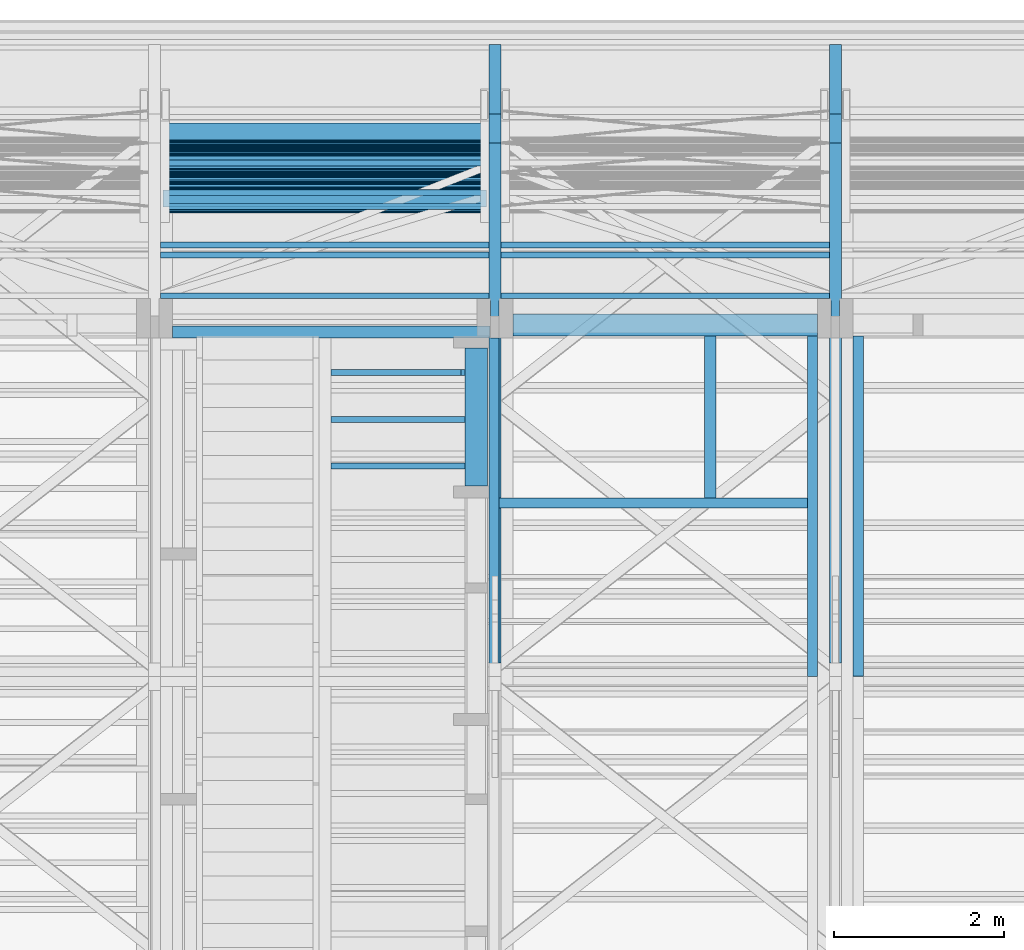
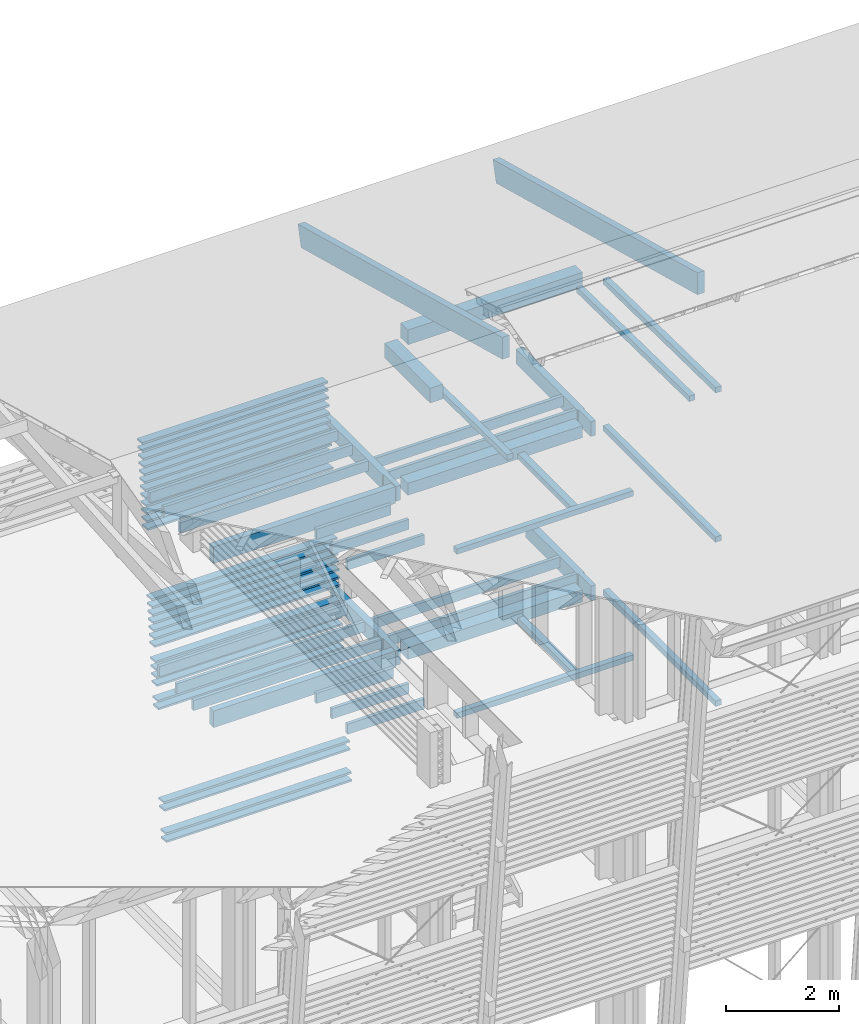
# One storey, part 15 of 48: 66 beams.
"""IFC2X3 building model written with IfcOpenShell, lengths in metres."""

from ifc_helpers import new_model, si_unit, direction, frame, origin_with_axes, place, context, subcontext, project, spatial, faceted_brep, material, element, save


model = new_model("IFC2X3")

# Units and contexts
model_context = context("Model", 3, precision=1e-06, world=origin_with_axes(), true_north=direction((0.0, 1.0, 0.0)))
body_context = subcontext(model_context, "Body", "Model", "MODEL_VIEW")
ifc_project = project(units=[si_unit("LENGTHUNIT", "METRE"), si_unit("AREAUNIT", "SQUARE_METRE"), si_unit("VOLUMEUNIT", "CUBIC_METRE"), si_unit("PLANEANGLEUNIT", "RADIAN")], contexts=[model_context])

# Site, building, storey
site_placement = place(None, origin_with_axes())
site = spatial("IfcSite", under=ifc_project, at=site_placement, CompositionType="ELEMENT")
building_placement = place(site_placement, origin_with_axes())
building = spatial("IfcBuilding", under=site, at=building_placement, Name="Building 1", CompositionType="ELEMENT")
storey_placement = place(building_placement, origin_with_axes())
storey = spatial("IfcBuildingStorey", under=building, at=storey_placement, Name="Storey 1", CompositionType="ELEMENT", Elevation=0.0)

# Beams
ifc_material_1 = material(Name="GL28h")
beam_1_placement = place(storey_placement, frame((41.5597437, -183.5174506, 4.139), z_axis=(0.0, 0.0, 1.0), x_axis=(1.0, 0.0, 0.0)))
element("IfcBeam", 1, at=beam_1_placement, inside=storey, material=ifc_material_1, Name="Solive", context=body_context, shape_type="Brep", body=[
    faceted_brep([(3.86, 0.035, 0.11), (3.86, 0.035, -0.11), (0.0, 0.035, -0.11), (0.0, 0.035, 0.11), (3.86, -0.035, -0.11), (0.0, -0.035, -0.11), (3.86, -0.035, 0.11), (0.0, -0.035, 0.11)], [[[0, 1, 2, 3]], [[1, 4, 5, 2]], [[4, 6, 7, 5]], [[6, 0, 3, 7]], [[1, 0, 6, 4]], [[7, 3, 2, 5]]]),
])
beam_2_placement = place(storey_placement, frame((45.4897437, -181.8355309, 11.197686), z_axis=(0.0, 0.258819, 0.9659258), x_axis=(0.0, -0.9659258, 0.258819)))
element("IfcBeam", 2, at=beam_2_placement, inside=storey, material=ifc_material_1, Name="Arbalétrier", context=body_context, shape_type="Brep", body=[
    faceted_brep([(7.4053414, 0.07, -0.23), (7.5285981, 0.07, 0.23), (7.5285981, -0.07, 0.23), (7.4053414, -0.07, -0.23), (0.0, 0.07, 0.23), (0.0, -0.07, 0.23), (0.0, 0.07, -0.23), (0.0, -0.07, -0.23)], [[[0, 1, 2, 3]], [[2, 1, 4, 5]], [[1, 0, 6, 4]], [[0, 3, 7, 6]], [[3, 2, 5, 7]], [[6, 7, 5, 4]]]),
])
ifc_material_2 = material(Name="Moabi")
beam_3_placement = place(storey_placement, frame((45.3927441, -183.5896631, 1.1905332), z_axis=(0.0, -0.9945219, 0.1045285), x_axis=(-1.0, 0.0, 0.0)))
element("IfcBeam", 3, at=beam_3_placement, inside=storey, material=ifc_material_2, Name="garde corp", context=body_context, shape_type="Brep", body=[
    faceted_brep([(3.806, -0.02, 0.1), (3.806, 0.02, 0.1), (0.0, 0.02, 0.1), (0.0, -0.02, 0.1), (3.806, 0.02, -0.1), (0.0, 0.02, -0.1), (3.806, -0.02, -0.1), (0.0, -0.02, -0.1)], [[[0, 1, 2, 3]], [[1, 4, 5, 2]], [[4, 6, 7, 5]], [[6, 0, 3, 7]], [[1, 0, 6, 4]], [[7, 3, 2, 5]]]),
])
beam_4_placement = place(storey_placement, frame((45.3927439, -183.1715493, 5.1686208), z_axis=(0.0, -0.9945219, 0.1045285), x_axis=(-1.0, 0.0, 0.0)))
element("IfcBeam", 4, at=beam_4_placement, inside=storey, material=ifc_material_2, Name="garde corp", context=body_context, shape_type="Brep", body=[
    faceted_brep([(3.8048053, -0.02, 0.1), (3.8048053, 0.02, 0.1), (0.0, 0.02, 0.1), (0.0, -0.02, 0.1), (3.8048051, 0.02, -0.1), (0.0, 0.02, -0.1), (3.8048053, -0.02, -0.1), (0.0, -0.02, -0.1)], [[[0, 1, 2, 3]], [[1, 4, 5, 2]], [[4, 6, 7, 5]], [[6, 0, 3, 7]], [[1, 0, 6, 4]], [[7, 3, 2, 5]]]),
])
for number, where, z_axis, x_axis, name in (
    (5, (49.2197437, -185.2055702, 10.7599677), (0.0, 0.0149983, 0.9998875), (0.0, -0.9998875, 0.0149983), "Sous-glace"),
    (6, (49.7597437, -185.2055702, 10.7599682), (0.0, 0.0149983, 0.9998875), (0.0, -0.9998875, 0.0149983), "Sous-glace"),
    (7, (45.4797437, -185.2055702, 10.7999722), (0.0, 0.0149983, 0.9998875), (0.0, -0.9998875, 0.0149983), "Sous-glace"),
):
    element("IfcBeam", number, at=place(storey_placement, frame(where, z_axis=z_axis, x_axis=x_axis)), inside=storey, material=ifc_material_1, Name=name, context=body_context, shape_type="Brep", body=[
        faceted_brep([(4.0038138, -0.06, 0.06), (4.0020138, -0.06, -0.06), (4.0020138, 0.06, -0.06), (4.0038138, 0.06, 0.06), (0.0, -0.06, -0.06), (0.0, 0.06, -0.06), (0.0018, -0.06, 0.06), (0.0018, 0.06, 0.06)], [[[0, 1, 2, 3]], [[2, 1, 4, 5]], [[1, 0, 6, 4]], [[5, 4, 6, 7]], [[0, 3, 7, 6]], [[3, 2, 5, 7]]]),
    ])
beam_5_placement = place(storey_placement, frame((41.6997437, -185.1564877, 4.069), z_axis=(0.0, 0.0, 1.0), x_axis=(1.0, 0.0, 0.0)))
element("IfcBeam", 8, at=beam_5_placement, inside=storey, material=ifc_material_1, Name="Sommier", context=body_context, shape_type="Brep", body=[
    faceted_brep([(3.73, 0.07, 0.18), (3.73, 0.07, -0.18), (0.0, 0.07, -0.18), (0.0, 0.07, 0.18), (3.73, -0.07, -0.18), (0.0, -0.07, -0.18), (3.73, -0.07, 0.18), (0.0, -0.07, 0.18)], [[[0, 1, 2, 3]], [[1, 4, 5, 2]], [[4, 6, 7, 5]], [[6, 0, 3, 7]], [[1, 0, 6, 4]], [[7, 3, 2, 5]]]),
])
beam_6_placement = place(storey_placement, frame((45.5397437, -187.1664884, 7.575), z_axis=(0.0, 0.0, 1.0), x_axis=(1.0, 0.0, 0.0)))
element("IfcBeam", 9, at=beam_6_placement, inside=storey, material=ifc_material_1, Name="Sous-glace", context=body_context, shape_type="Brep", body=[
    faceted_brep([(3.62, -0.06, 0.06), (3.62, -0.06, -0.06), (3.62, 0.06, -0.06), (3.62, 0.06, 0.06), (0.0, -0.06, -0.06), (0.0, 0.06, -0.06), (0.0, -0.06, 0.06), (0.0, 0.06, 0.06)], [[[0, 1, 2, 3]], [[2, 1, 4, 5]], [[1, 0, 6, 4]], [[5, 4, 6, 7]], [[2, 5, 7, 3]], [[0, 3, 7, 6]]]),
])
beam_7_placement = place(storey_placement, frame((48.0197437, -187.1064884, 7.575), z_axis=(0.0, 0.0, 1.0), x_axis=(0.0, 1.0, 0.0)))
element("IfcBeam", 10, at=beam_7_placement, inside=storey, material=ifc_material_1, Name="Sous-glace", context=body_context, shape_type="Brep", body=[
    faceted_brep([(1.9000003, -0.07, -0.06), (1.9000003, 0.07, -0.06), (1.9000003, 0.07, 0.06), (1.9000003, -0.07, 0.06), (0.0, 0.07, -0.06), (0.0, 0.07, 0.06), (0.0, -0.07, -0.06), (0.0, -0.07, 0.06)], [[[0, 1, 2, 3]], [[2, 1, 4, 5]], [[1, 0, 6, 4]], [[0, 3, 7, 6]], [[4, 6, 7, 5]], [[3, 2, 5, 7]]]),
])
beam_8_placement = place(storey_placement, frame((45.5397437, -187.1664884, 4.015), z_axis=(0.0, 0.0, 1.0), x_axis=(1.0, 0.0, 0.0)))
element("IfcBeam", 11, at=beam_8_placement, inside=storey, material=ifc_material_1, Name="Sous-glace", context=body_context, shape_type="Brep", body=[
    faceted_brep([(3.62, -0.06, 0.06), (3.62, -0.06, -0.06), (3.62, 0.06, -0.06), (3.62, 0.06, 0.06), (0.0, -0.06, -0.06), (0.0, 0.06, -0.06), (0.0, -0.06, 0.06), (0.0, 0.06, 0.06)], [[[0, 1, 2, 3]], [[2, 1, 4, 5]], [[1, 0, 6, 4]], [[5, 4, 6, 7]], [[2, 5, 7, 3]], [[0, 3, 7, 6]]]),
])
beam_9_placement = place(storey_placement, frame((48.0197437, -187.1064884, 4.015), z_axis=(0.0, 0.0, 1.0), x_axis=(0.0, 1.0, 0.0)))
element("IfcBeam", 12, at=beam_9_placement, inside=storey, material=ifc_material_1, Name="Sous-glace", context=body_context, shape_type="Brep", body=[
    faceted_brep([(1.9000003, -0.07, -0.06), (1.9000003, 0.07, -0.06), (1.9000003, 0.07, 0.06), (1.9000003, -0.07, 0.06), (0.0, 0.07, -0.06), (0.0, 0.07, 0.06), (0.0, -0.07, -0.06), (0.0, -0.07, 0.06)], [[[0, 1, 2, 3]], [[2, 1, 4, 5]], [[1, 0, 6, 4]], [[0, 3, 7, 6]], [[4, 6, 7, 5]], [[3, 2, 5, 7]]]),
])
beam_10_placement = place(storey_placement, frame((45.3927441, -183.6565614, 0.5540392), z_axis=(0.0, -0.9945219, 0.1045285), x_axis=(-1.0, 0.0, 0.0)))
element("IfcBeam", 13, at=beam_10_placement, inside=storey, material=ifc_material_2, Name="garde corp", context=body_context, shape_type="Brep", body=[
    faceted_brep([(3.806, -0.02, 0.1), (3.806, 0.02, 0.1), (0.0, 0.02, 0.1), (0.0, -0.02, 0.1), (3.806, 0.02, -0.1), (0.0, 0.02, -0.1), (3.806, -0.02, -0.1), (0.0, -0.02, -0.1)], [[[0, 1, 2, 3]], [[1, 4, 5, 2]], [[4, 6, 7, 5]], [[6, 0, 3, 7]], [[1, 0, 6, 4]], [[7, 3, 2, 5]]]),
])
beam_11_placement = place(storey_placement, frame((45.6997437, -185.0764881, 7.645), z_axis=(0.0, 0.0, 1.0), x_axis=(1.0, 0.0, 0.0)))
element("IfcBeam", 14, at=beam_11_placement, inside=storey, material=ifc_material_1, Name="Buton", context=body_context, shape_type="Brep", body=[
    faceted_brep([(0.0, 0.13, 0.13), (0.0, -0.13, 0.13), (3.58, -0.13, 0.13), (3.58, 0.13, 0.13), (0.0, -0.13, -0.13), (3.58, -0.13, -0.13), (0.0, 0.13, -0.13), (3.58, 0.13, -0.13)], [[[0, 1, 2, 3]], [[2, 1, 4, 5]], [[1, 0, 6, 4]], [[5, 4, 6, 7]], [[0, 3, 7, 6]], [[3, 2, 5, 7]]]),
])
beam_12_placement = place(storey_placement, frame((49.7597437, -185.2064881, 4.015), z_axis=(0.0, 0.0, 1.0), x_axis=(0.0, -1.0, 0.0)))
element("IfcBeam", 15, at=beam_12_placement, inside=storey, material=ifc_material_1, Name="Sous-glace", context=body_context, shape_type="Brep", body=[
    faceted_brep([(0.0, -0.06, -0.06), (0.0, -0.06, 0.06), (0.0, 0.06, 0.06), (0.0, 0.06, -0.06), (3.9940817, -0.06, 0.06), (3.9940817, 0.06, 0.06), (3.9940817, -0.06, -0.06), (3.9940817, 0.06, -0.06)], [[[0, 1, 2, 3]], [[4, 5, 2, 1]], [[6, 4, 1, 0]], [[7, 6, 0, 3]], [[5, 7, 3, 2]], [[6, 7, 5, 4]]]),
])
beam_13_placement = place(storey_placement, frame((45.3927439, -183.2886212, 4.0547563), z_axis=(0.0, -0.9945219, 0.1045285), x_axis=(-1.0, 0.0, 0.0)))
element("IfcBeam", 16, at=beam_13_placement, inside=storey, material=ifc_material_2, Name="garde corp", context=body_context, shape_type="Brep", body=[
    faceted_brep([(3.8048051, -0.02, 0.1), (3.8048051, 0.02, 0.1), (0.0, 0.02, 0.1), (0.0, -0.02, 0.1), (3.8048051, 0.02, -0.1), (0.0, 0.02, -0.1), (3.8048051, -0.02, -0.1), (0.0, -0.02, -0.1)], [[[0, 1, 2, 3]], [[1, 4, 5, 2]], [[4, 6, 7, 5]], [[6, 0, 3, 7]], [[1, 0, 6, 4]], [[7, 3, 2, 5]]]),
])
beam_14_placement = place(storey_placement, frame((45.3927439, -183.2049984, 4.8503738), z_axis=(0.0, -0.9945219, 0.1045285), x_axis=(-1.0, 0.0, 0.0)))
element("IfcBeam", 17, at=beam_14_placement, inside=storey, material=ifc_material_2, Name="garde corp", context=body_context, shape_type="Brep", body=[
    faceted_brep([(3.8048053, -0.02, 0.1), (3.8048053, 0.02, 0.1), (0.0, 0.02, 0.1), (0.0, -0.02, 0.1), (3.8048051, 0.02, -0.1), (0.0, 0.02, -0.1), (3.8048053, -0.02, -0.1), (0.0, -0.02, -0.1)], [[[0, 1, 2, 3]], [[1, 4, 5, 2]], [[4, 6, 7, 5]], [[6, 0, 3, 7]], [[1, 0, 6, 4]], [[7, 3, 2, 5]]]),
])
beam_15_placement = place(storey_placement, frame((45.3927441, -182.8203337, 8.5102144), z_axis=(0.0, -0.9945219, 0.1045285), x_axis=(-1.0, 0.0, 0.0)))
element("IfcBeam", 18, at=beam_15_placement, inside=storey, material=ifc_material_2, Name="garde corp", context=body_context, shape_type="Brep", body=[
    faceted_brep([(3.806, -0.02, 0.1), (3.806, 0.02, 0.1), (0.0, 0.02, 0.1), (0.0, -0.02, 0.1), (3.806, 0.02, -0.1), (0.0, 0.02, -0.1), (3.806, -0.02, -0.1), (0.0, -0.02, -0.1)], [[[0, 1, 2, 3]], [[1, 4, 5, 2]], [[4, 6, 7, 5]], [[6, 0, 3, 7]], [[1, 0, 6, 4]], [[7, 3, 2, 5]]]),
])
beam_16_placement = place(storey_placement, frame((41.5597437, -184.7314881, 4.139), z_axis=(0.0, 0.0, 1.0), x_axis=(1.0, 0.0, 0.0)))
element("IfcBeam", 19, at=beam_16_placement, inside=storey, material=ifc_material_1, Name="Solive", context=body_context, shape_type="Brep", body=[
    faceted_brep([(3.86, 0.035, 0.11), (3.86, 0.035, -0.11), (0.0, 0.035, -0.11), (0.0, 0.035, 0.11), (3.86, -0.035, -0.11), (0.0, -0.035, -0.11), (3.86, -0.035, 0.11), (0.0, -0.035, 0.11)], [[[0, 1, 2, 3]], [[1, 4, 5, 2]], [[4, 6, 7, 5]], [[6, 0, 3, 7]], [[1, 0, 6, 4]], [[7, 3, 2, 5]]]),
])
for number, where, z_axis, x_axis, name in (
    (20, (45.3927441, -182.9541301, 7.2372263), (0.0, -0.9945219, 0.1045285), (-1.0, 0.0, 0.0), "garde corp"),
    (21, (45.3927441, -182.8370582, 8.3510909), (0.0, -0.9945219, 0.1045285), (-1.0, 0.0, 0.0), "garde corp"),
):
    element("IfcBeam", number, at=place(storey_placement, frame(where, z_axis=z_axis, x_axis=x_axis)), inside=storey, material=ifc_material_2, Name=name, context=body_context, shape_type="Brep", body=[
        faceted_brep([(3.806, -0.02, 0.1), (3.806, 0.02, 0.1), (0.0, 0.02, 0.1), (0.0, -0.02, 0.1), (3.806, 0.02, -0.1), (0.0, 0.02, -0.1), (3.806, -0.02, -0.1), (0.0, -0.02, -0.1)], [[[0, 1, 2, 3]], [[1, 4, 5, 2]], [[4, 6, 7, 5]], [[6, 0, 3, 7]], [[1, 0, 6, 4]], [[7, 3, 2, 5]]]),
    ])
beam_17_placement = place(storey_placement, frame((45.3927439, -183.1381002, 5.4868678), z_axis=(0.0, -0.9945219, 0.1045285), x_axis=(-1.0, 0.0, 0.0)))
element("IfcBeam", 22, at=beam_17_placement, inside=storey, material=ifc_material_2, Name="garde corp", context=body_context, shape_type="Brep", body=[
    faceted_brep([(3.8047071, -0.02, 0.1), (3.8047079, 0.02, 0.1), (0.0, 0.02, 0.1), (0.0, -0.02, 0.1), (3.8047077, 0.02, -0.1), (0.0, 0.02, -0.1), (3.8047071, -0.02, -0.1), (0.0, -0.02, -0.1)], [[[0, 1, 2, 3]], [[1, 4, 5, 2]], [[4, 6, 7, 5]], [[6, 0, 3, 7]], [[1, 0, 6, 4]], [[7, 3, 2, 5]]]),
])
for number, where, z_axis, x_axis, name in (
    (23, (45.3927441, -182.920681, 7.5554733), (0.0, -0.9945219, 0.1045285), (-1.0, 0.0, 0.0), "garde corp"),
    (24, (45.3927441, -182.8537828, 8.1919674), (0.0, -0.9945219, 0.1045285), (-1.0, 0.0, 0.0), "garde corp"),
):
    element("IfcBeam", number, at=place(storey_placement, frame(where, z_axis=z_axis, x_axis=x_axis)), inside=storey, material=ifc_material_2, Name=name, context=body_context, shape_type="Brep", body=[
        faceted_brep([(3.806, -0.02, 0.1), (3.806, 0.02, 0.1), (0.0, 0.02, 0.1), (0.0, -0.02, 0.1), (3.806, 0.02, -0.1), (0.0, 0.02, -0.1), (3.806, -0.02, -0.1), (0.0, -0.02, -0.1)], [[[0, 1, 2, 3]], [[1, 4, 5, 2]], [[4, 6, 7, 5]], [[6, 0, 3, 7]], [[1, 0, 6, 4]], [[7, 3, 2, 5]]]),
    ])
beam_18_placement = place(storey_placement, frame((45.3927439, -183.2384475, 4.5321268), z_axis=(0.0, -0.9945219, 0.1045285), x_axis=(-1.0, 0.0, 0.0)))
element("IfcBeam", 25, at=beam_18_placement, inside=storey, material=ifc_material_2, Name="garde corp", context=body_context, shape_type="Brep", body=[
    faceted_brep([(3.8047077, -0.02, 0.1), (3.8047077, 0.02, 0.1), (0.0, 0.02, 0.1), (0.0, -0.02, 0.1), (3.8047077, 0.02, -0.1), (0.0, 0.02, -0.1), (3.8047077, -0.02, -0.1), (0.0, -0.02, -0.1)], [[[0, 1, 2, 3]], [[1, 4, 5, 2]], [[4, 6, 7, 5]], [[6, 0, 3, 7]], [[1, 0, 6, 4]], [[7, 3, 2, 5]]]),
])
beam_19_placement = place(storey_placement, frame((43.5597437, -186.7330698, 4.139), z_axis=(0.0, 0.0, 1.0), x_axis=(1.0, 0.0, 0.0)))
element("IfcBeam", 26, at=beam_19_placement, inside=storey, material=ifc_material_1, Name="Solive", context=body_context, shape_type="Brep", body=[
    faceted_brep([(1.58, 0.035, -0.11), (1.58, -0.035, -0.11), (0.0, -0.035, -0.11), (0.0, 0.035, -0.11), (1.58, -0.035, 0.11), (0.0, -0.035, 0.11), (1.58, 0.035, 0.11), (0.0, 0.035, 0.11)], [[[0, 1, 2, 3]], [[1, 4, 5, 2]], [[4, 6, 7, 5]], [[6, 0, 3, 7]], [[0, 6, 4, 1]], [[5, 7, 3, 2]]]),
])
for number, where, z_axis, x_axis, name in (
    (27, (45.3927441, -182.9039564, 7.7145968), (0.0, -0.9945219, 0.1045285), (-1.0, 0.0, 0.0), "garde corp"),
    (28, (45.3927441, -182.9708546, 7.0781028), (0.0, -0.9945219, 0.1045285), (-1.0, 0.0, 0.0), "garde corp"),
):
    element("IfcBeam", number, at=place(storey_placement, frame(where, z_axis=z_axis, x_axis=x_axis)), inside=storey, material=ifc_material_2, Name=name, context=body_context, shape_type="Brep", body=[
        faceted_brep([(3.806, -0.02, 0.1), (3.806, 0.02, 0.1), (0.0, 0.02, 0.1), (0.0, -0.02, 0.1), (3.806, 0.02, -0.1), (0.0, 0.02, -0.1), (3.806, -0.02, -0.1), (0.0, -0.02, -0.1)], [[[0, 1, 2, 3]], [[1, 4, 5, 2]], [[4, 6, 7, 5]], [[6, 0, 3, 7]], [[1, 0, 6, 4]], [[7, 3, 2, 5]]]),
    ])
beam_20_placement = place(storey_placement, frame((45.3927439, -183.2718966, 4.2138798), z_axis=(0.0, -0.9945219, 0.1045285), x_axis=(-1.0, 0.0, 0.0)))
element("IfcBeam", 29, at=beam_20_placement, inside=storey, material=ifc_material_2, Name="garde corp", context=body_context, shape_type="Brep", body=[
    faceted_brep([(3.8048051, -0.02, 0.1), (3.8048051, 0.02, 0.1), (0.0, 0.02, 0.1), (0.0, -0.02, 0.1), (3.8048051, 0.02, -0.1), (0.0, 0.02, -0.1), (3.8048051, -0.02, -0.1), (0.0, -0.02, -0.1)], [[[0, 1, 2, 3]], [[1, 4, 5, 2]], [[4, 6, 7, 5]], [[6, 0, 3, 7]], [[1, 0, 6, 4]], [[7, 3, 2, 5]]]),
])
beam_21_placement = place(storey_placement, frame((45.3927441, -182.9374055, 7.3963498), z_axis=(0.0, -0.9945219, 0.1045285), x_axis=(-1.0, 0.0, 0.0)))
element("IfcBeam", 30, at=beam_21_placement, inside=storey, material=ifc_material_2, Name="garde corp", context=body_context, shape_type="Brep", body=[
    faceted_brep([(3.806, -0.02, 0.1), (3.806, 0.02, 0.1), (0.0, 0.02, 0.1), (0.0, -0.02, 0.1), (3.806, 0.02, -0.1), (0.0, 0.02, -0.1), (3.806, -0.02, -0.1), (0.0, -0.02, -0.1)], [[[0, 1, 2, 3]], [[1, 4, 5, 2]], [[4, 6, 7, 5]], [[6, 0, 3, 7]], [[1, 0, 6, 4]], [[7, 3, 2, 5]]]),
])
for number, where, z_axis, x_axis in (
    (31, (41.5597437, -183.1714881, 7.699), (0.0, 0.0, 1.0), (1.0, 0.0, 0.0)),
    (32, (45.5597437, -184.2514881, 7.699), (0.0, 0.0, 1.0), (1.0, 0.0, 0.0)),
):
    element("IfcBeam", number, at=place(storey_placement, frame(where, z_axis=z_axis, x_axis=x_axis)), inside=storey, material=ifc_material_1, Name="Solive", context=body_context, shape_type="Brep", body=[
        faceted_brep([(3.86, 0.035, 0.11), (3.86, 0.035, -0.11), (0.0, 0.035, -0.11), (0.0, 0.035, 0.11), (3.86, -0.035, -0.11), (0.0, -0.035, -0.11), (3.86, -0.035, 0.11), (0.0, -0.035, 0.11)], [[[0, 1, 2, 3]], [[1, 4, 5, 2]], [[4, 6, 7, 5]], [[6, 0, 3, 7]], [[1, 0, 6, 4]], [[7, 3, 2, 5]]]),
    ])
beam_22_placement = place(storey_placement, frame((41.5597433, -183.6814881, 7.699), z_axis=(0.0, 0.0, 1.0), x_axis=(1.0, 0.0, 0.0)))
element("IfcBeam", 33, at=beam_22_placement, inside=storey, material=ifc_material_1, Name="Solive", context=body_context, shape_type="Brep", body=[
    faceted_brep([(3.8600004, -0.035, -0.11), (3.8600004, 0.035, -0.11), (3.8600004, 0.035, 0.11), (3.8600004, -0.035, 0.11), (0.0, 0.035, -0.11), (0.0, 0.035, 0.11), (0.0, -0.035, -0.11), (0.0, -0.035, 0.11)], [[[0, 1, 2, 3]], [[2, 1, 4, 5]], [[1, 0, 6, 4]], [[0, 3, 7, 6]], [[3, 2, 5, 7]], [[7, 5, 4, 6]]]),
])
beam_23_placement = place(storey_placement, frame((41.5597437, -184.2514881, 7.699), z_axis=(0.0, 0.0, 1.0), x_axis=(1.0, 0.0, 0.0)))
element("IfcBeam", 34, at=beam_23_placement, inside=storey, material=ifc_material_1, Name="Solive", context=body_context, shape_type="Brep", body=[
    faceted_brep([(3.86, 0.035, 0.11), (3.86, 0.035, -0.11), (0.0, 0.035, -0.11), (0.0, 0.035, 0.11), (3.86, -0.035, -0.11), (0.0, -0.035, -0.11), (3.86, -0.035, 0.11), (0.0, -0.035, 0.11)], [[[0, 1, 2, 3]], [[1, 4, 5, 2]], [[4, 6, 7, 5]], [[6, 0, 3, 7]], [[1, 0, 6, 4]], [[7, 3, 2, 5]]]),
])
beam_24_placement = place(storey_placement, frame((45.3927441, -182.8872319, 7.8737203), z_axis=(0.0, -0.9945219, 0.1045285), x_axis=(-1.0, 0.0, 0.0)))
element("IfcBeam", 35, at=beam_24_placement, inside=storey, material=ifc_material_2, Name="garde corp", context=body_context, shape_type="Brep", body=[
    faceted_brep([(3.806, -0.02, 0.1), (3.806, 0.02, 0.1), (0.0, 0.02, 0.1), (0.0, -0.02, 0.1), (3.806, 0.02, -0.1), (0.0, 0.02, -0.1), (3.806, -0.02, -0.1), (0.0, -0.02, -0.1)], [[[0, 1, 2, 3]], [[1, 4, 5, 2]], [[4, 6, 7, 5]], [[6, 0, 3, 7]], [[1, 0, 6, 4]], [[7, 3, 2, 5]]]),
])
beam_25_placement = place(storey_placement, frame((45.5596481, -184.7314881, 7.699), z_axis=(0.0, 0.0, 1.0), x_axis=(1.0, 0.0, 0.0)))
element("IfcBeam", 36, at=beam_25_placement, inside=storey, material=ifc_material_1, Name="Solive", context=body_context, shape_type="Brep", body=[
    faceted_brep([(3.8600004, -0.035, -0.11), (3.8600956, 0.035, -0.11), (3.8600956, 0.035, 0.11), (3.8600004, -0.035, 0.11), (0.0, 0.035, -0.11), (0.0, 0.035, 0.11), (0.0, -0.035, -0.11), (0.0, -0.035, 0.11)], [[[0, 1, 2, 3]], [[2, 1, 4, 5]], [[1, 0, 6, 4]], [[0, 3, 7, 6]], [[3, 2, 5, 7]], [[7, 5, 4, 6]]]),
])
beam_26_placement = place(storey_placement, frame((45.5597437, -184.1344693, 4.139), z_axis=(0.0, 0.0, 1.0), x_axis=(1.0, 0.0, 0.0)))
element("IfcBeam", 37, at=beam_26_placement, inside=storey, material=ifc_material_1, Name="Solive", context=body_context, shape_type="Brep", body=[
    faceted_brep([(3.86, 0.035, 0.11), (3.86, 0.035, -0.11), (0.0, 0.035, -0.11), (0.0, 0.035, 0.11), (3.86, -0.035, -0.11), (0.0, -0.035, -0.11), (3.86, -0.035, 0.11), (0.0, -0.035, 0.11)], [[[0, 1, 2, 3]], [[1, 4, 5, 2]], [[4, 6, 7, 5]], [[6, 0, 3, 7]], [[1, 0, 6, 4]], [[7, 3, 2, 5]]]),
])
beam_27_placement = place(storey_placement, frame((43.5597437, -185.6330698, 4.139), z_axis=(0.0, 0.0, 1.0), x_axis=(1.0, 0.0, 0.0)))
element("IfcBeam", 38, at=beam_27_placement, inside=storey, material=ifc_material_1, Name="Solive", context=body_context, shape_type="Brep", body=[
    faceted_brep([(1.58, 0.035, -0.11), (1.58, -0.035, -0.11), (0.0, -0.035, -0.11), (0.0, 0.035, -0.11), (1.58, -0.035, 0.11), (0.0, -0.035, 0.11), (1.58, 0.035, 0.11), (0.0, 0.035, 0.11)], [[[0, 1, 2, 3]], [[1, 4, 5, 2]], [[4, 6, 7, 5]], [[6, 0, 3, 7]], [[0, 6, 4, 1]], [[5, 7, 3, 2]]]),
])
beam_28_placement = place(storey_placement, frame((49.4897437, -185.2264881, 7.649), z_axis=(0.0, 0.0, 1.0), x_axis=(0.0, 1.0, 0.0)))
element("IfcBeam", 39, at=beam_28_placement, inside=storey, material=ifc_material_1, Name="Sommier Coursive", context=body_context, shape_type="Brep", body=[
    faceted_brep([(0.0, -0.05, -0.16), (0.44, -0.05, -0.16), (0.44, -0.05, 0.16), (0.0, -0.05, 0.16), (0.44, -0.07, -0.16), (0.44, -0.07, 0.16), (0.0, 0.05, 0.16), (0.0, 0.05, -0.16), (2.6285375, -0.07, 0.16), (2.6285375, 0.07, 0.16), (0.44, 0.07, 0.16), (0.44, 0.05, 0.16), (0.44, 0.05, -0.16), (0.44, 0.07, -0.16), (2.6285375, -0.07, -0.16), (2.6285375, 0.07, -0.16)], [[[0, 1, 2, 3]], [[1, 4, 5, 2]], [[0, 3, 6, 7]], [[3, 2, 5, 8, 9, 10, 11, 6]], [[6, 11, 12, 7]], [[11, 10, 13, 12]], [[5, 4, 14, 8]], [[1, 0, 7, 12, 13, 15, 14, 4]], [[13, 10, 9, 15]], [[9, 8, 14, 15]]]),
])
for number, where, z_axis, x_axis in (
    (40, (45.5597437, -184.7314881, 4.139), (0.0, 0.0, 1.0), (1.0, 0.0, 0.0)),
    (41, (41.5597437, -184.1344693, 4.139), (0.0, 0.0, 1.0), (1.0, 0.0, 0.0)),
):
    element("IfcBeam", number, at=place(storey_placement, frame(where, z_axis=z_axis, x_axis=x_axis)), inside=storey, material=ifc_material_1, Name="Solive", context=body_context, shape_type="Brep", body=[
        faceted_brep([(3.86, 0.035, 0.11), (3.86, 0.035, -0.11), (0.0, 0.035, -0.11), (0.0, 0.035, 0.11), (3.86, -0.035, -0.11), (0.0, -0.035, -0.11), (3.86, -0.035, 0.11), (0.0, -0.035, 0.11)], [[[0, 1, 2, 3]], [[1, 4, 5, 2]], [[4, 6, 7, 5]], [[6, 0, 3, 7]], [[1, 0, 6, 4]], [[7, 3, 2, 5]]]),
    ])
beam_29_placement = place(storey_placement, frame((43.5597437, -186.1830698, 4.139), z_axis=(0.0, 0.0, 1.0), x_axis=(1.0, 0.0, 0.0)))
element("IfcBeam", 42, at=beam_29_placement, inside=storey, material=ifc_material_1, Name="Solive", context=body_context, shape_type="Brep", body=[
    faceted_brep([(1.58, 0.035, -0.11), (1.58, -0.035, -0.11), (0.0, -0.035, -0.11), (0.0, 0.035, -0.11), (1.58, -0.035, 0.11), (0.0, -0.035, 0.11), (1.58, 0.035, 0.11), (0.0, 0.035, 0.11)], [[[0, 1, 2, 3]], [[1, 4, 5, 2]], [[4, 6, 7, 5]], [[6, 0, 3, 7]], [[0, 6, 4, 1]], [[5, 7, 3, 2]]]),
])
beam_30_placement = place(storey_placement, frame((45.4897437, -185.2264881, 4.089), z_axis=(0.0, 0.0, 1.0), x_axis=(0.0, 1.0, 0.0)))
element("IfcBeam", 43, at=beam_30_placement, inside=storey, material=ifc_material_1, Name="Sommier Coursive", context=body_context, shape_type="Brep", body=[
    faceted_brep([(0.0, 0.05, 0.16), (0.44, 0.05, 0.16), (0.44, 0.05, -0.16), (0.0, 0.05, -0.16), (0.44, 0.07, 0.16), (0.44, 0.07, -0.16), (0.0, -0.05, 0.16), (0.44, -0.05, 0.16), (0.44, -0.07, 0.16), (2.2900003, -0.07, 0.16), (2.2900003, 0.07, 0.16), (0.0, -0.05, -0.16), (0.44, -0.05, -0.16), (0.44, -0.07, -0.16), (2.2900003, 0.07, -0.16), (2.2900003, -0.07, -0.16)], [[[0, 1, 2, 3]], [[1, 4, 5, 2]], [[4, 1, 0, 6, 7, 8, 9, 10]], [[0, 3, 11, 6]], [[11, 12, 7, 6]], [[12, 13, 8, 7]], [[2, 5, 14, 15, 13, 12, 11, 3]], [[8, 13, 15, 9]], [[5, 4, 10, 14]], [[10, 9, 15, 14]]]),
])
beam_31_placement = place(storey_placement, frame((45.4897437, -185.2264881, 7.649), z_axis=(0.0, 0.0, 1.0), x_axis=(0.0, 1.0, 0.0)))
element("IfcBeam", 44, at=beam_31_placement, inside=storey, material=ifc_material_1, Name="Sommier Coursive", context=body_context, shape_type="Brep", body=[
    faceted_brep([(0.0, -0.05, -0.16), (0.44, -0.05, -0.16), (0.44, -0.05, 0.16), (0.0, -0.05, 0.16), (0.44, -0.07, -0.16), (0.44, -0.07, 0.16), (0.0, 0.05, 0.16), (0.0, 0.05, -0.16), (2.6285375, -0.07, 0.16), (2.6285375, 0.07, 0.16), (0.44, 0.07, 0.16), (0.44, 0.05, 0.16), (0.44, 0.05, -0.16), (0.44, 0.07, -0.16), (2.6285375, -0.07, -0.16), (2.6285375, 0.07, -0.16)], [[[0, 1, 2, 3]], [[1, 4, 5, 2]], [[0, 3, 6, 7]], [[3, 2, 5, 8, 9, 10, 11, 6]], [[6, 11, 12, 7]], [[11, 10, 13, 12]], [[5, 4, 14, 8]], [[1, 0, 7, 12, 13, 15, 14, 4]], [[13, 10, 9, 15]], [[9, 8, 14, 15]]]),
])
beam_32_placement = place(storey_placement, frame((49.4897437, -181.8355309, 11.197686), z_axis=(0.0, 0.258819, 0.9659258), x_axis=(0.0, -0.9659258, 0.258819)))
element("IfcBeam", 45, at=beam_32_placement, inside=storey, material=ifc_material_1, Name="Arbalétrier", context=body_context, shape_type="Brep", body=[
    faceted_brep([(7.4053414, 0.07, -0.23), (7.5285981, 0.07, 0.23), (7.5285981, -0.07, 0.23), (7.4053414, -0.07, -0.23), (0.0, 0.07, 0.23), (0.0, -0.07, 0.23), (0.0, 0.07, -0.23), (0.0, -0.07, -0.23)], [[[0, 1, 2, 3]], [[2, 1, 4, 5]], [[1, 0, 6, 4]], [[0, 3, 7, 6]], [[3, 2, 5, 7]], [[6, 7, 5, 4]]]),
])
beam_33_placement = place(storey_placement, frame((49.4897437, -185.2264881, 4.089), z_axis=(0.0, 0.0, 1.0), x_axis=(0.0, 1.0, 0.0)))
element("IfcBeam", 46, at=beam_33_placement, inside=storey, material=ifc_material_1, Name="Sommier Coursive", context=body_context, shape_type="Brep", body=[
    faceted_brep([(0.0, 0.05, 0.16), (0.44, 0.05, 0.16), (0.44, 0.05, -0.16), (0.0, 0.05, -0.16), (0.44, 0.07, 0.16), (0.44, 0.07, -0.16), (0.0, -0.05, 0.16), (0.44, -0.05, 0.16), (0.44, -0.07, 0.16), (2.2900003, -0.07, 0.16), (2.2900003, 0.07, 0.16), (0.0, -0.05, -0.16), (0.44, -0.05, -0.16), (0.44, -0.07, -0.16), (2.2900003, 0.07, -0.16), (2.2900003, -0.07, -0.16)], [[[0, 1, 2, 3]], [[1, 4, 5, 2]], [[4, 1, 0, 6, 7, 8, 9, 10]], [[0, 3, 11, 6]], [[11, 12, 7, 6]], [[12, 13, 8, 7]], [[2, 5, 14, 15, 13, 12, 11, 3]], [[8, 13, 15, 9]], [[5, 4, 10, 14]], [[10, 9, 15, 14]]]),
])
beam_34_placement = place(storey_placement, frame((49.7597437, -185.2064881, 7.575), z_axis=(0.0, 0.0, 1.0), x_axis=(0.0, -1.0, 0.0)))
element("IfcBeam", 47, at=beam_34_placement, inside=storey, material=ifc_material_1, Name="Sous-glace", context=body_context, shape_type="Brep", body=[
    faceted_brep([(0.0, -0.06, -0.06), (0.0, -0.06, 0.06), (0.0, 0.06, 0.06), (0.0, 0.06, -0.06), (3.9940817, -0.06, 0.06), (3.9940817, 0.06, 0.06), (3.9940817, -0.06, -0.06), (3.9940817, 0.06, -0.06)], [[[0, 1, 2, 3]], [[4, 5, 2, 1]], [[6, 4, 1, 0]], [[7, 6, 0, 3]], [[5, 7, 3, 2]], [[6, 7, 5, 4]]]),
])
for number, where, z_axis, x_axis, name in (
    (48, (45.3927437, -182.8705073, 8.0328439), (0.0, -0.9945219, 0.1045285), (-1.0, 0.0, 0.0), "garde corp"),
    (49, (45.3927441, -183.6398368, 0.7131627), (0.0, -0.9945219, 0.1045285), (-1.0, 0.0, 0.0), "garde corp"),
):
    element("IfcBeam", number, at=place(storey_placement, frame(where, z_axis=z_axis, x_axis=x_axis)), inside=storey, material=ifc_material_2, Name=name, context=body_context, shape_type="Brep", body=[
        faceted_brep([(3.806, -0.02, 0.1), (3.806, 0.02, 0.1), (0.0, 0.02, 0.1), (0.0, -0.02, 0.1), (3.806, 0.02, -0.1), (0.0, 0.02, -0.1), (3.806, -0.02, -0.1), (0.0, -0.02, -0.1)], [[[0, 1, 2, 3]], [[1, 4, 5, 2]], [[4, 6, 7, 5]], [[6, 0, 3, 7]], [[1, 0, 6, 4]], [[7, 3, 2, 5]]]),
    ])
beam_35_placement = place(storey_placement, frame((45.6997437, -185.0764881, 10.94), z_axis=(0.0, 0.0, 1.0), x_axis=(1.0, 0.0, 0.0)))
element("IfcBeam", 50, at=beam_35_placement, inside=storey, material=ifc_material_1, Name="Buton", context=body_context, shape_type="Brep", body=[
    faceted_brep([(0.0, 0.13, 0.16), (0.0, -0.13, 0.16), (3.58, -0.13, 0.16), (3.58, 0.13, 0.16), (0.0, -0.13, -0.16), (3.58, -0.13, -0.16), (0.0, 0.13, -0.16), (3.58, 0.13, -0.16)], [[[0, 1, 2, 3]], [[2, 1, 4, 5]], [[1, 0, 6, 4]], [[5, 4, 6, 7]], [[3, 2, 5, 7]], [[0, 3, 7, 6]]]),
])
beam_36_placement = place(storey_placement, frame((45.2697437, -185.3464881, 10.94), z_axis=(0.0, 0.0, 1.0), x_axis=(0.0, -1.0, 0.0)))
element("IfcBeam", 51, at=beam_36_placement, inside=storey, material=ifc_material_1, Name="Buton", context=body_context, shape_type="Brep", body=[
    faceted_brep([(1.6200003, 0.13, -0.16), (1.6200003, 0.13, 0.16), (1.6200003, -0.13, 0.16), (1.6200003, -0.13, -0.16), (0.0, -0.13, -0.16), (0.0, 0.13, -0.16), (0.0, -0.13, 0.16), (0.0, 0.13, 0.16)], [[[0, 1, 2, 3]], [[0, 3, 4, 5]], [[3, 2, 6, 4]], [[2, 1, 7, 6]], [[6, 7, 5, 4]], [[1, 0, 5, 7]]]),
])
beam_37_placement = place(storey_placement, frame((43.5597437, -185.6330698, 7.699), z_axis=(0.0, 0.0, 1.0), x_axis=(1.0, 0.0, 0.0)))
element("IfcBeam", 52, at=beam_37_placement, inside=storey, material=ifc_material_1, Name="Solive", context=body_context, shape_type="Brep", body=[
    faceted_brep([(1.53, 0.035, 0.11), (1.53, 0.035, -0.11), (0.0, 0.035, -0.11), (0.0, 0.035, 0.11), (1.53, -0.035, -0.11), (0.0, -0.035, -0.11), (1.53, -0.035, 0.11), (0.0, -0.035, 0.11)], [[[0, 1, 2, 3]], [[1, 4, 5, 2]], [[4, 6, 7, 5]], [[6, 0, 3, 7]], [[1, 0, 6, 4]], [[7, 3, 2, 5]]]),
])
beam_38_placement = place(storey_placement, frame((41.6997437, -185.1564877, 7.629), z_axis=(0.0, 0.0, 1.0), x_axis=(1.0, 0.0, 0.0)))
element("IfcBeam", 53, at=beam_38_placement, inside=storey, material=ifc_material_1, Name="Sommier", context=body_context, shape_type="Brep", body=[
    faceted_brep([(3.73, 0.07, 0.18), (3.73, 0.07, -0.18), (0.0, 0.07, -0.18), (0.0, 0.07, 0.18), (3.73, -0.07, -0.18), (0.0, -0.07, -0.18), (3.73, -0.07, 0.18), (0.0, -0.07, 0.18)], [[[0, 1, 2, 3]], [[1, 4, 5, 2]], [[4, 6, 7, 5]], [[6, 0, 3, 7]], [[1, 0, 6, 4]], [[7, 3, 2, 5]]]),
])
beam_39_placement = place(storey_placement, frame((45.3927439, -183.3555194, 3.4182623), z_axis=(0.0, -0.9945219, 0.1045285), x_axis=(-1.0, 0.0, 0.0)))
element("IfcBeam", 54, at=beam_39_placement, inside=storey, material=ifc_material_2, Name="garde corp", context=body_context, shape_type="Brep", body=[
    faceted_brep([(3.8047073, -0.02, 0.1), (3.8047077, 0.02, 0.1), (0.0, 0.02, 0.1), (0.0, -0.02, 0.1), (3.8047077, 0.02, -0.1), (0.0, 0.02, -0.1), (3.8047077, -0.02, -0.1), (0.0, -0.02, -0.1)], [[[0, 1, 2, 3]], [[1, 4, 5, 2]], [[4, 6, 7, 5]], [[6, 0, 3, 7]], [[1, 0, 6, 4]], [[7, 3, 2, 5]]]),
])
beam_40_placement = place(storey_placement, frame((45.6997437, -185.0764881, 4.085), z_axis=(0.0, 0.0, 1.0), x_axis=(1.0, 0.0, 0.0)))
element("IfcBeam", 55, at=beam_40_placement, inside=storey, material=ifc_material_1, Name="Buton", context=body_context, shape_type="Brep", body=[
    faceted_brep([(0.0, 0.13, 0.13), (0.0, -0.13, 0.13), (3.58, -0.13, 0.13), (3.58, 0.13, 0.13), (0.0, -0.13, -0.13), (3.58, -0.13, -0.13), (0.0, 0.13, -0.13), (3.58, 0.13, -0.13)], [[[0, 1, 2, 3]], [[2, 1, 4, 5]], [[1, 0, 6, 4]], [[5, 4, 6, 7]], [[0, 3, 7, 6]], [[3, 2, 5, 7]]]),
])
for number, where, z_axis, x_axis in (
    (56, (43.5597437, -186.7330698, 7.699), (0.0, 0.0, 1.0), (1.0, 0.0, 0.0)),
    (57, (43.5597437, -186.1830698, 7.699), (0.0, 0.0, 1.0), (1.0, 0.0, 0.0)),
):
    element("IfcBeam", number, at=place(storey_placement, frame(where, z_axis=z_axis, x_axis=x_axis)), inside=storey, material=ifc_material_1, Name="Solive", context=body_context, shape_type="Brep", body=[
        faceted_brep([(1.58, 0.035, -0.11), (1.58, -0.035, -0.11), (0.0, -0.035, -0.11), (0.0, 0.035, -0.11), (1.58, -0.035, 0.11), (0.0, -0.035, 0.11), (1.58, 0.035, 0.11), (0.0, 0.035, 0.11)], [[[0, 1, 2, 3]], [[1, 4, 5, 2]], [[4, 6, 7, 5]], [[6, 0, 3, 7]], [[0, 6, 4, 1]], [[5, 7, 3, 2]]]),
    ])
for number, where, z_axis, x_axis, name in (
    (58, (45.3927437, -182.8036091, 8.6693379), (0.0, -0.9945219, 0.1045285), (-1.0, 0.0, 0.0), "garde corp"),
    (59, (45.3927441, -182.9875792, 6.9189793), (0.0, -0.9945219, 0.1045285), (-1.0, 0.0, 0.0), "garde corp"),
):
    element("IfcBeam", number, at=place(storey_placement, frame(where, z_axis=z_axis, x_axis=x_axis)), inside=storey, material=ifc_material_2, Name=name, context=body_context, shape_type="Brep", body=[
        faceted_brep([(3.806, -0.02, 0.1), (3.806, 0.02, 0.1), (0.0, 0.02, 0.1), (0.0, -0.02, 0.1), (3.806, 0.02, -0.1), (0.0, 0.02, -0.1), (3.806, -0.02, -0.1), (0.0, -0.02, -0.1)], [[[0, 1, 2, 3]], [[1, 4, 5, 2]], [[4, 6, 7, 5]], [[6, 0, 3, 7]], [[1, 0, 6, 4]], [[7, 3, 2, 5]]]),
    ])
beam_41_placement = place(storey_placement, frame((45.3927439, -183.221723, 4.6912503), z_axis=(0.0, -0.9945219, 0.1045285), x_axis=(-1.0, 0.0, 0.0)))
element("IfcBeam", 60, at=beam_41_placement, inside=storey, material=ifc_material_2, Name="garde corp", context=body_context, shape_type="Brep", body=[
    faceted_brep([(3.8047071, -0.02, 0.1), (3.8047079, 0.02, 0.1), (0.0, 0.02, 0.1), (0.0, -0.02, 0.1), (3.8047071, 0.02, -0.1), (0.0, 0.02, -0.1), (3.8047071, -0.02, -0.1), (0.0, -0.02, -0.1)], [[[0, 1, 2, 3]], [[1, 4, 5, 2]], [[4, 6, 7, 5]], [[6, 0, 3, 7]], [[1, 0, 6, 4]], [[7, 3, 2, 5]]]),
])
beam_42_placement = place(storey_placement, frame((45.3927441, -183.5729386, 1.3496567), z_axis=(0.0, -0.9945219, 0.1045285), x_axis=(-1.0, 0.0, 0.0)))
element("IfcBeam", 61, at=beam_42_placement, inside=storey, material=ifc_material_2, Name="garde corp", context=body_context, shape_type="Brep", body=[
    faceted_brep([(3.806, -0.02, 0.1), (3.806, 0.02, 0.1), (0.0, 0.02, 0.1), (0.0, -0.02, 0.1), (3.806, 0.02, -0.1), (0.0, 0.02, -0.1), (3.806, -0.02, -0.1), (0.0, -0.02, -0.1)], [[[0, 1, 2, 3]], [[1, 4, 5, 2]], [[4, 6, 7, 5]], [[6, 0, 3, 7]], [[1, 0, 6, 4]], [[7, 3, 2, 5]]]),
])
beam_43_placement = place(storey_placement, frame((45.3927439, -183.1882738, 5.0094973), z_axis=(0.0, -0.9945219, 0.1045285), x_axis=(-1.0, 0.0, 0.0)))
element("IfcBeam", 62, at=beam_43_placement, inside=storey, material=ifc_material_2, Name="garde corp", context=body_context, shape_type="Brep", body=[
    faceted_brep([(3.8047077, -0.02, 0.1), (3.8047077, 0.02, 0.1), (0.0, 0.02, 0.1), (0.0, -0.02, 0.1), (3.8047077, 0.02, -0.1), (0.0, 0.02, -0.1), (3.8047077, -0.02, -0.1), (0.0, -0.02, -0.1)], [[[0, 1, 2, 3]], [[1, 4, 5, 2]], [[4, 6, 7, 5]], [[6, 0, 3, 7]], [[1, 0, 6, 4]], [[7, 3, 2, 5]]]),
])
beam_44_placement = place(storey_placement, frame((45.3927439, -183.3722439, 3.2591388), z_axis=(0.0, -0.9945219, 0.1045285), x_axis=(-1.0, 0.0, 0.0)))
element("IfcBeam", 63, at=beam_44_placement, inside=storey, material=ifc_material_2, Name="garde corp", context=body_context, shape_type="Brep", body=[
    faceted_brep([(3.8048051, -0.02, 0.1), (3.8048051, 0.02, 0.1), (0.0, 0.02, 0.1), (0.0, -0.02, 0.1), (3.8048051, 0.02, -0.1), (0.0, 0.02, -0.1), (3.8048051, -0.02, -0.1), (0.0, -0.02, -0.1)], [[[0, 1, 2, 3]], [[1, 4, 5, 2]], [[4, 6, 7, 5]], [[6, 0, 3, 7]], [[1, 0, 6, 4]], [[7, 3, 2, 5]]]),
])
beam_45_placement = place(storey_placement, frame((45.3927439, -183.3220703, 3.7365093), z_axis=(0.0, -0.9945219, 0.1045285), x_axis=(-1.0, 0.0, 0.0)))
element("IfcBeam", 64, at=beam_45_placement, inside=storey, material=ifc_material_2, Name="garde corp", context=body_context, shape_type="Brep", body=[
    faceted_brep([(3.8047073, -0.02, 0.1), (3.8047077, 0.02, 0.1), (0.0, 0.02, 0.1), (0.0, -0.02, 0.1), (3.8047077, 0.02, -0.1), (0.0, 0.02, -0.1), (3.8047077, -0.02, -0.1), (0.0, -0.02, -0.1)], [[[0, 1, 2, 3]], [[1, 4, 5, 2]], [[4, 6, 7, 5]], [[6, 0, 3, 7]], [[1, 0, 6, 4]], [[7, 3, 2, 5]]]),
])
beam_46_placement = place(storey_placement, frame((45.3927439, -183.1548247, 5.3277443), z_axis=(0.0, -0.9945219, 0.1045285), x_axis=(-1.0, 0.0, 0.0)))
element("IfcBeam", 65, at=beam_46_placement, inside=storey, material=ifc_material_2, Name="garde corp", context=body_context, shape_type="Brep", body=[
    faceted_brep([(3.8048053, -0.02, 0.1), (3.8048053, 0.02, 0.1), (0.0, 0.02, 0.1), (0.0, -0.02, 0.1), (3.8048051, 0.02, -0.1), (0.0, 0.02, -0.1), (3.8048053, -0.02, -0.1), (0.0, -0.02, -0.1)], [[[0, 1, 2, 3]], [[1, 4, 5, 2]], [[4, 6, 7, 5]], [[6, 0, 3, 7]], [[1, 0, 6, 4]], [[7, 3, 2, 5]]]),
])
beam_47_placement = place(storey_placement, frame((45.3927439, -183.3053457, 3.8956328), z_axis=(0.0, -0.9945219, 0.1045285), x_axis=(-1.0, 0.0, 0.0)))
element("IfcBeam", 66, at=beam_47_placement, inside=storey, material=ifc_material_2, Name="garde corp", context=body_context, shape_type="Brep", body=[
    faceted_brep([(3.8047073, -0.02, 0.1), (3.8047075, 0.02, 0.1), (0.0, 0.02, 0.1), (0.0, -0.02, 0.1), (3.8047077, 0.02, -0.1), (0.0, 0.02, -0.1), (3.8047077, -0.02, -0.1), (0.0, -0.02, -0.1)], [[[0, 1, 2, 3]], [[1, 4, 5, 2]], [[4, 6, 7, 5]], [[6, 0, 3, 7]], [[1, 0, 6, 4]], [[7, 3, 2, 5]]]),
])

save(model, "model.ifc")
